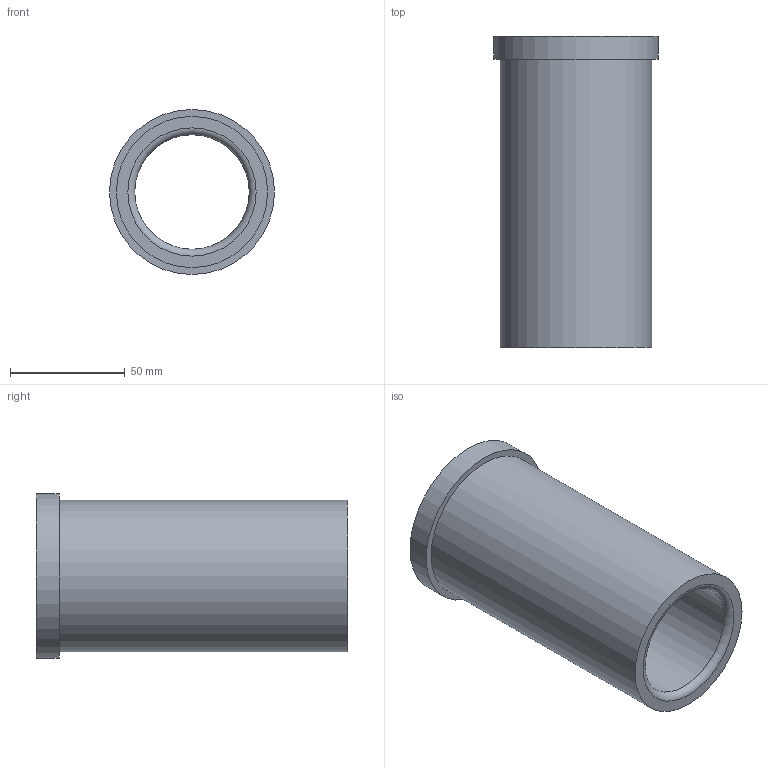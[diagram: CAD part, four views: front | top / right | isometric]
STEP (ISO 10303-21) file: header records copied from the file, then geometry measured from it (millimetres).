
FILE_DESCRIPTION(/* description */ ('STEP AP214'),/* implementation_level */ '2;1');
FILE_NAME(/* name */ '03_12_17962',/* time_stamp */ '2023-06-15T11:35:48+02:00',/* author */ ('License CC BY-ND 4.0'),/* organization */ ('CADENAS'),/* preprocessor_version */ 'ST-DEVELOPER v19.3',/* originating_system */ 'PARTsolutions',/* authorisation */ ' ');
FILE_SCHEMA (('AUTOMOTIVE_DESIGN {1 0 10303 214 3 1 1}'));
Length unit declared in the file: millimetre
Products named in the file (1): VA_Bushing_17962
Bounding box: 72 x 136 x 72 mm (x, y, z)
Volume: 202834 mm3; surface area: 53618.6 mm2
Topology: 1 solids, 1 shells, 10 faces, 16 edges, 10 vertices
Faces by surface type: cylinder 4, plane 4, torus 2
Full cylindrical faces by diameter (mm): 50 x1, 50.6 x1, 66 x1, 72 x1
Entity records: 302 total; most frequent: DIRECTION 42, CARTESIAN_POINT 31, AXIS2_PLACEMENT_3D 21, ORIENTED_EDGE 20, EDGE_LOOP 20, FACE_BOUND 20, EDGE_CURVE 10, VERTEX_POINT 10
